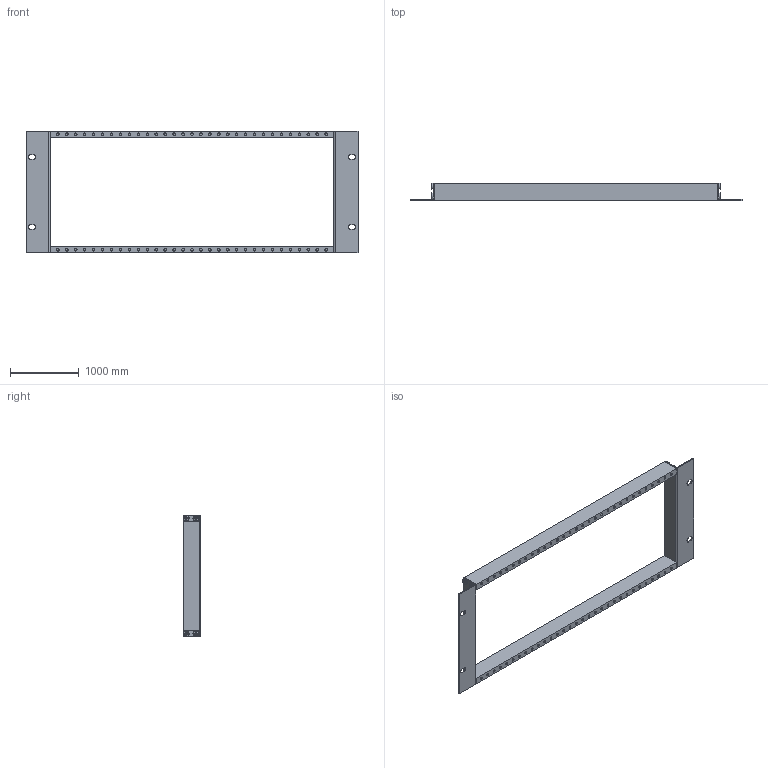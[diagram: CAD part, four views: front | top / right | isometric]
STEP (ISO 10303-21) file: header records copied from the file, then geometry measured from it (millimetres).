
FILE_DESCRIPTION((' '),'2;1');
FILE_NAME('L:\ENG\Projects\Enclosures\407cases\Model\Inventor\4M800K1.stp','2011-09-16T10:54:37',(' '),(' '),' ','ACIS',' ');
FILE_SCHEMA(('CONFIG_CONTROL_DESIGN'));
Length unit declared in the file: millimetre
Products named in the file (4): L:\ENG\Projects\Enclosures\407cases\Model\Inventor\4M800K1.stp; Component2; Component3; Component4
Assembly tree (12 placements, depth 2):
  L:\ENG\Projects\Enclosures\407cases\Model\Inventor\4M800K1.stp
    Component2  x2
    Component3  x2
    Component4  x8
Bounding box: 4826 x 251.5 x 1770 mm (x, y, z)
Volume: 231318011.2 mm3; surface area: 11298827.2 mm2
Topology: 12 solids, 12 shells, 480 faces, 1078 edges, 702 vertices
Faces by surface type: plane 276, cylinder 146, bspline 50, torus 8
Full cylindrical faces by diameter (mm): 4.186 x8, 37 x66, 40 x8, 42 x8, 83 x8
Entity records: 4622 total; most frequent: CARTESIAN_POINT 1048, DIRECTION 592, ORIENTED_EDGE 464, AXIS2_PLACEMENT_3D 254, EDGE_LOOP 234, EDGE_CURVE 232, VERTEX_POINT 180, FACE_OUTER_BOUND 138
